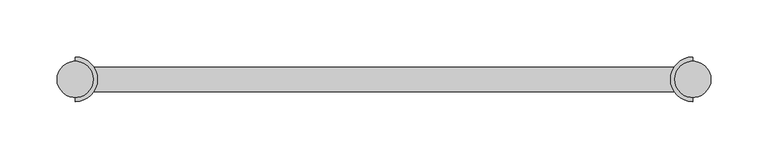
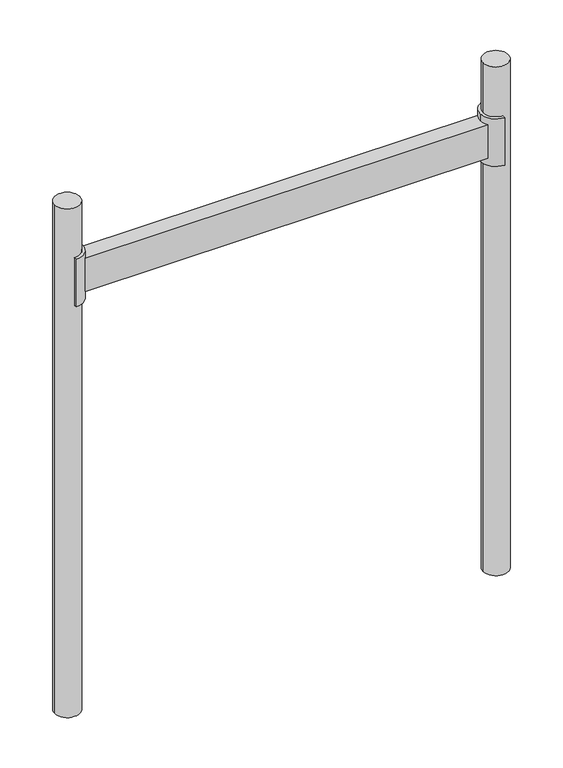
"""IFC4 building model written with IfcOpenShell, lengths in millimetres: furniture geometry."""

from ifc_helpers import new_model, si_unit, point, frame, frame_2d, origin, place, context, project, spatial, polyline, circle_curve, trimmed, segment, composite_curve, outline, extrude, source, transform, mapped, element, save


def furniture_ef8da2bd(model_context):
    return source(origin(), model_context, "Body", "SweptSolid", [
        extrude(outline(polyline([(254.8610983, 10.6660156), (254.8610983, -10.6660156), (-254.7264017, -10.6660156), (-254.7264017, 10.6660156), (254.8610983, 10.6660156)])), frame((0.0, 0.0, 1459.3024246), z_axis=(0.0, 0.0, 1.0), x_axis=(1.0, 0.0, 0.0)), (0.0, 0.0, 1.0), 44.45),
        extrude(outline(composite_curve([segment(trimmed(circle_curve(frame_2d((-270.6014017, 0.0)), 15.875), [point((-254.7264017, 0.0))], [point((-270.6014017, 15.875))], True, "CARTESIAN"), True, "CONTINUOUS"), segment(polyline([(-270.6014017, 15.875), (-270.6014017, 19.54022)]), True, "CONTINUOUS"), segment(trimmed(circle_curve(frame_2d((-270.6014017, 0.0)), 19.54022), [point((-270.6014017, 19.54022))], [point((-251.0611817, 0.0))], False, "CARTESIAN"), True, "CONTINUOUS"), segment(trimmed(circle_curve(frame_2d((-270.6014017, 0.0)), 19.54022), [point((-251.0611817, 0.0))], [point((-270.6014017, -19.54022))], False, "CARTESIAN"), True, "CONTINUOUS"), segment(polyline([(-270.6014017, -19.54022), (-270.6014017, -15.875)]), True, "CONTINUOUS"), segment(trimmed(circle_curve(frame_2d((-270.6014017, 0.0)), 15.875), [point((-270.6014017, -15.875))], [point((-254.7264017, 0.0))], True, "CARTESIAN"), True, "CONTINUOUS")], self_intersect=False)), frame((0.0, 0.0, 1449.7774246), z_axis=(0.0, 0.0, 1.0), x_axis=(1.0, 0.0, 0.0)), (0.0, 0.0, 1.0), 63.5),
        extrude(outline(composite_curve([segment(trimmed(circle_curve(frame_2d((270.7360983, 0.0)), 19.54022), [point((251.1958783, 0.0))], [point((270.7360983, 19.54022))], False, "CARTESIAN"), True, "CONTINUOUS"), segment(polyline([(270.7360983, 19.54022), (270.7360983, 15.875)]), True, "CONTINUOUS"), segment(trimmed(circle_curve(frame_2d((270.7360983, 0.0)), 15.875), [point((270.7360983, 15.875))], [point((254.8610983, 0.0))], True, "CARTESIAN"), True, "CONTINUOUS"), segment(trimmed(circle_curve(frame_2d((270.7360983, 0.0)), 15.875), [point((254.8610983, 0.0))], [point((270.7360983, -15.875))], True, "CARTESIAN"), True, "CONTINUOUS"), segment(polyline([(270.7360983, -15.875), (270.7360983, -19.54022)]), True, "CONTINUOUS"), segment(trimmed(circle_curve(frame_2d((270.7360983, 0.0)), 19.54022), [point((270.7360983, -19.54022))], [point((251.1958783, 0.0))], False, "CARTESIAN"), True, "CONTINUOUS")], self_intersect=False)), frame((0.0, 0.0, 1449.7774246), z_axis=(0.0, 0.0, 1.0), x_axis=(1.0, 0.0, 0.0)), (0.0, 0.0, 1.0), 63.5),
        extrude(outline(composite_curve([segment(trimmed(circle_curve(frame_2d((-270.6014017, 0.0)), 15.875), [point((-254.7264017, 0.0))], [point((-286.4764017, 0.0))], False, "CARTESIAN"), True, "CONTINUOUS"), segment(trimmed(circle_curve(frame_2d((-270.6014017, 0.0)), 15.875), [point((-286.4764017, 0.0))], [point((-254.7264017, 0.0))], False, "CARTESIAN"), True, "CONTINUOUS")], self_intersect=False)), frame((0.0, 0.0, 900.5024246), z_axis=(0.0, 0.0, 1.0), x_axis=(1.0, 0.0, 0.0)), (0.0, 0.0, 1.0), 679.45),
        extrude(outline(composite_curve([segment(trimmed(circle_curve(frame_2d((270.7360983, 0.0)), 15.875), [point((286.6110983, 0.0))], [point((254.8610983, 0.0))], False, "CARTESIAN"), True, "CONTINUOUS"), segment(trimmed(circle_curve(frame_2d((270.7360983, 0.0)), 15.875), [point((254.8610983, 0.0))], [point((286.6110983, 0.0))], False, "CARTESIAN"), True, "CONTINUOUS")], self_intersect=False)), frame((0.0, 0.0, 900.5024246), z_axis=(0.0, 0.0, 1.0), x_axis=(1.0, 0.0, 0.0)), (0.0, 0.0, 1.0), 679.45),
    ])


if __name__ == "__main__":
    model = new_model("IFC4")
    model_context = context("Model", 3, world=origin())
    ifc_project = project(units=[si_unit("LENGTHUNIT", "METRE", prefix="MILLI")], contexts=[model_context])
    site = spatial("IfcSite", under=ifc_project)
    building = spatial("IfcBuilding", under=site)
    placement = place(None, origin())
    furniture_shape = furniture_ef8da2bd(model_context)
    element("IfcFurniture", 1, ObjectType="HermanMiller_Carts_CT790_Above-CartRailSingle-WideCart : Rail For Carts 28\"W", at=placement, inside=building, context=model_context, shape_type="MappedRepresentation", body=[
        mapped(furniture_shape, transform((0.0, 0.0, 0.0), x_axis=(1.0, 0.0, 0.0), y_axis=(0.0, 1.0, 0.0), z_axis=(0.0, 0.0, 1.0))),
    ])
    save(model, "model.ifc")
